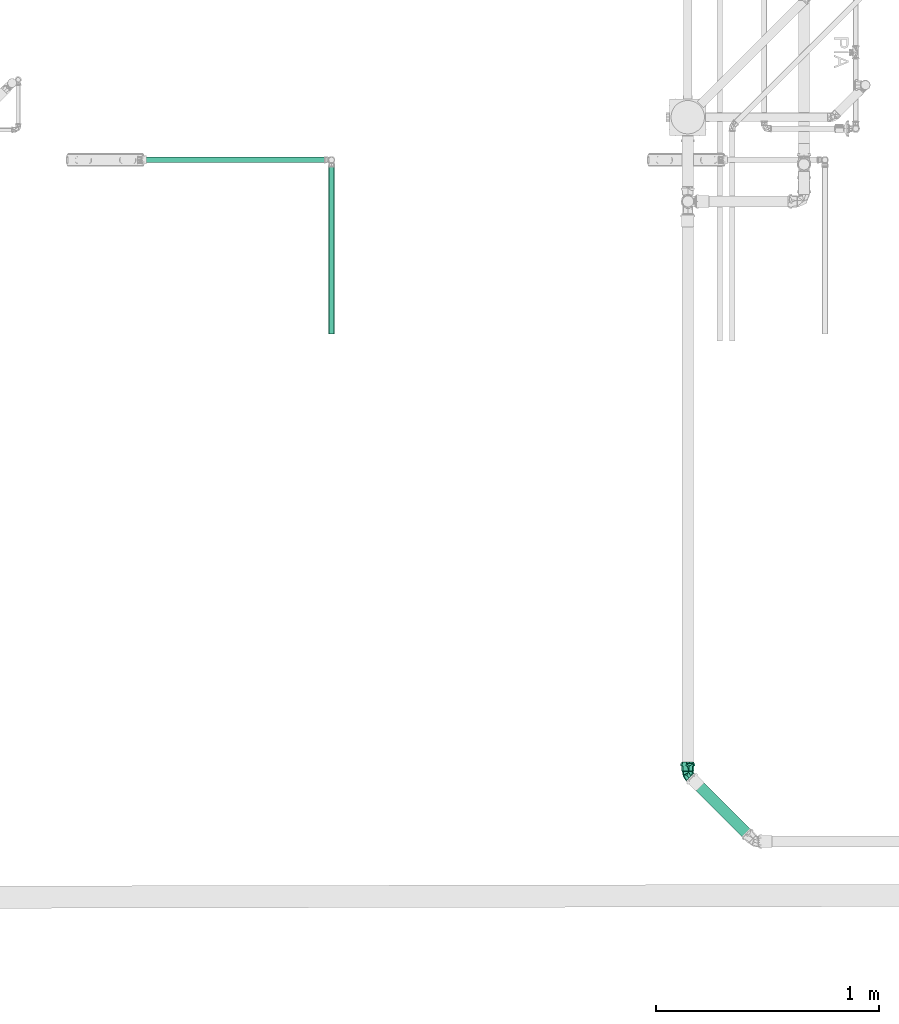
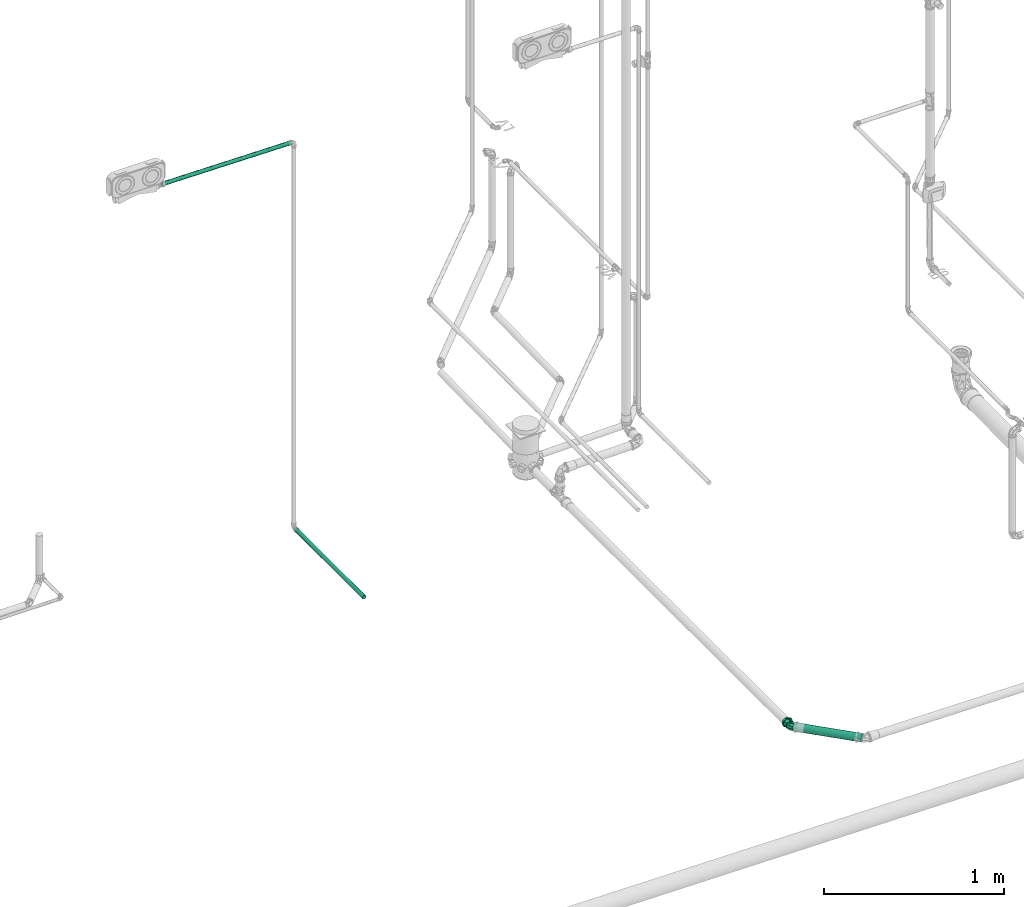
# One storey, part 35 of 589: 3 flow segments, 1 flow fitting.
"""IFC2X3 building model written with IfcOpenShell, lengths in millimetres."""

from ifc_helpers import new_model, entity, si_unit, converted_unit, derived_unit, direction, frame, frame_2d, origin, origin_2d_with_axis, place, context, subcontext, project, spatial, circle, extrude, faceted_brep, source, transform, mapped, material, type_object, type_shapes, element, save


model = new_model("IFC2X3")

# Units and contexts
model_context = context("Model", 3, precision=0.01, world=origin(), true_north=direction((6.123031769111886e-17, 1.0)))
body_context = subcontext(model_context, "Body", "Model", "MODEL_VIEW")
ifc_project = project(units=[si_unit("LENGTHUNIT", "METRE", prefix="MILLI"), si_unit("AREAUNIT", "SQUARE_METRE"), si_unit("VOLUMEUNIT", "CUBIC_METRE"), converted_unit("PLANEANGLEUNIT", "DEGREE", entity("IfcRatioMeasure", 0.017453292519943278), si_unit("PLANEANGLEUNIT", "RADIAN"), dimensions=[0, 0, 0, 0, 0, 0, 0]), si_unit("MASSUNIT", "GRAM", prefix="KILO"), derived_unit("MASSDENSITYUNIT", [(si_unit("MASSUNIT", "GRAM", prefix="KILO"), 1), (si_unit("LENGTHUNIT", "METRE"), -3)]), derived_unit("IONCONCENTRATIONUNIT", [(si_unit("MASSUNIT", "GRAM", prefix="KILO"), 1), (si_unit("LENGTHUNIT", "METRE"), -3)]), derived_unit("MOMENTOFINERTIAUNIT", [(si_unit("LENGTHUNIT", "METRE"), 4)]), si_unit("TIMEUNIT", "SECOND"), si_unit("FREQUENCYUNIT", "HERTZ"), si_unit("THERMODYNAMICTEMPERATUREUNIT", "DEGREE_CELSIUS"), derived_unit("THERMALTRANSMITTANCEUNIT", [(si_unit("MASSUNIT", "GRAM", prefix="KILO"), 1), (si_unit("THERMODYNAMICTEMPERATUREUNIT", "KELVIN"), -1), (si_unit("TIMEUNIT", "SECOND"), -3)]), derived_unit("THERMALCONDUCTANCEUNIT", [(si_unit("MASSUNIT", "GRAM", prefix="KILO"), 1), (si_unit("THERMODYNAMICTEMPERATUREUNIT", "KELVIN"), -1), (si_unit("TIMEUNIT", "SECOND"), -3), (si_unit("LENGTHUNIT", "METRE"), 1)]), derived_unit("VOLUMETRICFLOWRATEUNIT", [(si_unit("LENGTHUNIT", "METRE"), 3), (si_unit("TIMEUNIT", "SECOND"), -1)]), derived_unit("MASSFLOWRATEUNIT", [(si_unit("MASSUNIT", "GRAM", prefix="KILO"), 1), (si_unit("TIMEUNIT", "SECOND"), -1)]), derived_unit("ROTATIONALFREQUENCYUNIT", [(si_unit("TIMEUNIT", "SECOND"), -1)]), si_unit("ELECTRICCURRENTUNIT", "AMPERE"), si_unit("ELECTRICVOLTAGEUNIT", "VOLT"), si_unit("POWERUNIT", "WATT"), si_unit("FORCEUNIT", "NEWTON", prefix="KILO"), si_unit("ILLUMINANCEUNIT", "LUX"), si_unit("LUMINOUSFLUXUNIT", "LUMEN"), si_unit("LUMINOUSINTENSITYUNIT", "CANDELA"), derived_unit("USERDEFINED", [(si_unit("MASSUNIT", "GRAM", prefix="KILO"), -1), (si_unit("LENGTHUNIT", "METRE"), -2), (si_unit("TIMEUNIT", "SECOND"), 3), (si_unit("LUMINOUSFLUXUNIT", "LUMEN"), 1)]), derived_unit("USERDEFINED", [(si_unit("MASSUNIT", "GRAM", prefix="KILO"), 1), (si_unit("TIMEUNIT", "SECOND"), -3), (si_unit("LENGTHUNIT", "METRE"), 3), (si_unit("ELECTRICCURRENTUNIT", "AMPERE"), -2)]), derived_unit("SOUNDPOWERUNIT", [(si_unit("MASSUNIT", "GRAM", prefix="KILO"), 1), (si_unit("TIMEUNIT", "SECOND"), -3), (si_unit("LENGTHUNIT", "METRE"), 2)]), derived_unit("SOUNDPRESSUREUNIT", [(si_unit("MASSUNIT", "GRAM", prefix="KILO"), 1), (si_unit("LENGTHUNIT", "METRE"), -1), (si_unit("TIMEUNIT", "SECOND"), -2)]), derived_unit("LINEARVELOCITYUNIT", [(si_unit("LENGTHUNIT", "METRE"), 1), (si_unit("TIMEUNIT", "SECOND"), -1)]), si_unit("PRESSUREUNIT", "PASCAL"), derived_unit("USERDEFINED", [(si_unit("MASSUNIT", "GRAM", prefix="KILO"), 1), (si_unit("LENGTHUNIT", "METRE"), -2), (si_unit("TIMEUNIT", "SECOND"), -2)]), derived_unit("LINEARFORCEUNIT", [(si_unit("MASSUNIT", "GRAM", prefix="KILO"), 1), (si_unit("TIMEUNIT", "SECOND"), -2)]), derived_unit("PLANARFORCEUNIT", [(si_unit("MASSUNIT", "GRAM", prefix="KILO"), 1), (si_unit("LENGTHUNIT", "METRE"), -1), (si_unit("TIMEUNIT", "SECOND"), -2)]), derived_unit("SPECIFICHEATCAPACITYUNIT", [(si_unit("THERMODYNAMICTEMPERATUREUNIT", "KELVIN"), -1), (si_unit("LENGTHUNIT", "METRE"), 2), (si_unit("TIMEUNIT", "SECOND"), -2)]), derived_unit("HEATINGVALUEUNIT", [(si_unit("LENGTHUNIT", "METRE"), 2), (si_unit("TIMEUNIT", "SECOND"), -2)]), derived_unit("VAPORPERMEABILITYUNIT", [(si_unit("LENGTHUNIT", "METRE"), -1), (si_unit("TIMEUNIT", "SECOND"), 1)]), derived_unit("DYNAMICVISCOSITYUNIT", [(si_unit("MASSUNIT", "GRAM", prefix="KILO"), 1), (si_unit("TIMEUNIT", "SECOND"), -1), (si_unit("LENGTHUNIT", "METRE"), -1)]), derived_unit("THERMALEXPANSIONCOEFFICIENTUNIT", [(si_unit("THERMODYNAMICTEMPERATUREUNIT", "KELVIN"), -1)]), derived_unit("MODULUSOFELASTICITYUNIT", [(si_unit("MASSUNIT", "GRAM", prefix="KILO"), 1), (si_unit("LENGTHUNIT", "METRE"), -1), (si_unit("TIMEUNIT", "SECOND"), -2)]), derived_unit("ISOTHERMALMOISTURECAPACITYUNIT", [(si_unit("LENGTHUNIT", "METRE"), 3), (si_unit("MASSUNIT", "GRAM", prefix="KILO"), -1)]), derived_unit("MOISTUREDIFFUSIVITYUNIT", [(si_unit("TIMEUNIT", "SECOND"), -1), (si_unit("LENGTHUNIT", "METRE"), 2)])], contexts=[model_context])

# Site, building, storey
site_placement = place(None, origin())
site = spatial("IfcSite", under=ifc_project, at=site_placement, Name="Default", CompositionType="ELEMENT")
building_placement = place(site_placement, origin())
building = spatial("IfcBuilding", under=site, at=building_placement, CompositionType="ELEMENT")
storey_placement = place(building_placement, frame((0.0, 0.0, 100.0)))
storey = spatial("IfcBuildingStorey", under=building, at=storey_placement, Name="TÉRREO", CompositionType="ELEMENT", Elevation=100.0)

# Flow segments
pipe_segment_type_1 = type_object("IfcPipeSegmentType", Name="Tipos de tubos:PVC Esgoto Série Normal", PredefinedType="NOTDEFINED")
flow_segment_1_placement = place(storey_placement, origin())
element("IfcFlowSegment", 1, at=flow_segment_1_placement, inside=storey, type_object=pipe_segment_type_1, Name="Tipos de tubos:PVC Esgoto Série Normal", ObjectType="Tipos de tubos:PVC Esgoto Série Normal", context=body_context, shape_type="SweptSolid", body=[
    extrude(circle(Radius=25.0, at=frame_2d((2.3928209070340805e-14, -2.3927012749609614e-16), x_axis=(1.0, 0.0))), frame((-122.28602797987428, -10926.700416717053, -277.54565820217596), z_axis=(-0.7070714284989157, 0.7070714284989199, 0.009999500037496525), x_axis=(-0.7071067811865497, -0.7071067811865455, 0.0)), (0.0, 0.0, 1.0), 391.4150489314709),
])
pipe_segment_type_2 = type_object("IfcPipeSegmentType", Name="Tipos de tubos:PVC Marrom Soldável", PredefinedType="NOTDEFINED")
flow_segment_2_placement = place(storey_placement, origin())
element("IfcFlowSegment", 2, at=flow_segment_2_placement, inside=storey, type_object=pipe_segment_type_2, Name="Tipos de tubos:PVC Marrom Soldável", ObjectType="Tipos de tubos:PVC Marrom Soldável", context=body_context, shape_type="SweptSolid", body=[
    extrude(circle(Radius=12.5, at=frame_2d((-2.7071682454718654e-13, -9.417920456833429e-08), x_axis=(1.0, 0.0))), frame((-2004.8081497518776, -8667.861284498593, -37.354458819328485), z_axis=(-1.8287699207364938e-07, 1.0, 0.0), x_axis=(-1.0, -1.828769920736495e-07, 0.0)), (0.0, 0.0, 1.0), 764.6000387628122),
])
flow_segment_3_placement = place(storey_placement, origin())
element("IfcFlowSegment", 3, at=flow_segment_3_placement, inside=storey, type_object=pipe_segment_type_2, Name="Tipos de tubos:PVC Marrom Soldável", ObjectType="Tipos de tubos:PVC Marrom Soldável", context=body_context, shape_type="SweptSolid", body=[
    extrude(circle(Radius=12.5, at=origin_2d_with_axis()), frame((-2849.860439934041, -7887.861245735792, 2579.199580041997), z_axis=(0.9999500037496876, 0.0, -0.009999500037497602), x_axis=(0.0, -1.0, 0.0)), (0.0, 0.0, 1.0), 828.623539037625),
])

# Flow fitting
ifc_material = material(Name="PVC Série Normal")
pipe_fitting_type = type_object("IfcPipeFittingType", Name="PVC Esgoto_Joelho 45_90_Rodrigo MEP:a. Série Normal", PredefinedType="NOTDEFINED", material=ifc_material)
shared_shape = source(origin(), body_context, "Body", "Brep", [
    faceted_brep([(3.0399528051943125, 12.190087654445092, -24.1481456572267), (12.190287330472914, 3.0391520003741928, -24.14814565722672), (22.923928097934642, -7.695193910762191, -12.500000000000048), (25.292208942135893, -10.063630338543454, 0.0), (22.923928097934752, -7.6951939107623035, 12.499999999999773), (12.190287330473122, 3.039152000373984, 24.148145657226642), (3.039952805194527, 12.190087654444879, 24.14814565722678), (-7.693687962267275, 22.92443356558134, 12.500000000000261), (-10.061968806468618, 25.292869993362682, 0.0), (-7.693687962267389, 22.924433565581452, -12.499999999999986), (26.60100413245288, -4.01835942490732, -12.500000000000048), (15.867363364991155, 6.715986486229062, -24.14814565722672), (6.717028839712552, 15.86692214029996, -24.1481456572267), (-4.016611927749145, 26.601268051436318, -12.499999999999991), (-6.384892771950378, 28.969704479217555, 0.0), (-4.016611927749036, 26.60126805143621, 12.500000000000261), (6.717028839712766, 15.866922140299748, 24.14814565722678), (15.86736336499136, 6.715986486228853, 24.148145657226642), (26.60100413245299, -4.018359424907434, 12.499999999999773), (28.969284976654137, -6.386795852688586, 0.0)], [[[0, 1, 2, 3, 4, 5, 6, 7, 8, 9]], [[10, 11, 12, 13, 14, 15, 16, 17, 18, 19]], [[3, 19, 18, 4]], [[4, 18, 17, 5]], [[17, 16, 6, 5]], [[6, 16, 15, 7]], [[7, 15, 14, 8]], [[8, 14, 13, 9]], [[9, 13, 12, 0]], [[12, 11, 1, 0]], [[1, 11, 10, 2]], [[2, 10, 19, 3]]]),
    faceted_brep([(-55.969052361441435, -6.988114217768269, -26.07999730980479), (-55.969052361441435, -6.47047612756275, -24.14814565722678), (-55.969052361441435, 6.4704761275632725, -24.148145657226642), (-55.969052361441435, -23.382685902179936, -13.499999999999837), (-55.969052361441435, 6.988114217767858, -26.0799973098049), (-55.969052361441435, -21.650635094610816, -12.500000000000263), (-55.969052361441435, -25.0, 0.0), (-55.969052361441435, -27.0, 0.0), (-55.969052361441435, -21.650635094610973, 12.499999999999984), (-55.969052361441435, -23.382685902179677, 13.500000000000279), (-55.969052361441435, -6.470476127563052, 24.1481456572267), (-55.969052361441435, -6.98811421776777, 26.079997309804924), (-55.969052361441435, 6.470476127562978, 24.14814565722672), (-55.969052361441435, 6.988114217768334, 26.07999730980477), (-55.969052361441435, 21.650635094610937, 12.500000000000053), (-55.969052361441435, 23.38268590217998, 13.499999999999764), (-55.969052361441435, 27.0, 0.0), (-55.969052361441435, 25.0, 0.0), (-55.969052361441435, 23.382685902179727, -13.500000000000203), (-55.969052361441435, 21.6506350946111, -12.499999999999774), (-15.969052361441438, 21.650635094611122, -12.499999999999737), (-15.969052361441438, 25.0, 0.0), (-15.969052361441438, 6.4704761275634, -24.148145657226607), (-15.969052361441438, -6.470476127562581, -24.148145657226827), (-15.969052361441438, -21.650635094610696, -12.500000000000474), (-15.969052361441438, -25.0, 0.0), (-15.969052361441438, -21.65063509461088, 12.500000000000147), (-15.969052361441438, -6.470476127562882, 24.14814565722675), (-15.969052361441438, 6.470476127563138, 24.148145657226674), (-15.969052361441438, 21.650635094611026, 12.499999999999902), (-15.969052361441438, 27.0, 0.0), (-15.969052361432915, 20.682232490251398, 17.35641838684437), (-15.96905236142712, 4.685536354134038, 26.59033187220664), (-15.96905236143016, -20.686585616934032, 17.35122979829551), (-15.969052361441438, -27.0, 0.0), (-15.969052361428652, -8.000524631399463, 21.970780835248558), (-15.969052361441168, -20.686585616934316, -17.35122979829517), (-15.969052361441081, -4.6922062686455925, -26.589155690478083), (-15.96905236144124, 20.682232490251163, -17.356418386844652), (-15.969052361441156, 7.995013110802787, -21.972787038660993), (-13.769052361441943, -4.338459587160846, -24.620677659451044), (-13.76905236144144, 25.0, 0.0), (-13.769052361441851, 19.15424594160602, -16.065953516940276), (-13.769052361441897, 7.407893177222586, -20.343315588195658), (-13.769052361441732, -19.15021526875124, -16.070757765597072), (-13.769052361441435, -25.0, 0.0), (-13.769052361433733, -19.150215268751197, 16.07075776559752), (-13.769052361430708, -7.402789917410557, 20.34517318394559), (-13.769052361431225, 19.15424594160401, 16.065953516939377), (-13.769052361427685, 4.344635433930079, 24.61958860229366), (-10.769052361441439, 25.0, 0.0), (-10.769052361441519, 19.151286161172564, 16.069481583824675), (-10.769052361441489, 4.341396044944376, 24.62016003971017), (-10.769052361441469, -7.404832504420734, 20.344954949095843), (-10.769052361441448, -19.15106105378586, 16.069749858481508), (-10.769052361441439, -25.0, 0.0), (-10.769052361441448, -19.15106105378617, -16.069749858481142), (-10.769052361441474, -4.341051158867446, -24.62022085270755), (-10.769052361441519, 19.15128616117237, -16.069481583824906), (-10.769052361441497, 7.405117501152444, -20.344851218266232), (22.923928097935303, -7.695193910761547, -12.500000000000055), (12.190287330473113, 3.0391520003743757, -24.14814565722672), (3.039952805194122, 12.19008765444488, -24.1481456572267), (-7.6936879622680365, 22.924433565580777, -12.499999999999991), (-10.06196880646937, 25.292869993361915, 0.0), (-7.693687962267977, 22.924433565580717, 12.500000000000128), (3.0399528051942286, 12.190087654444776, 24.14814565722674), (12.190287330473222, 3.039152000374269, 24.148145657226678), (22.923928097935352, -7.6951939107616, 12.499999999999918), (25.29220894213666, -10.063630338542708, 0.0), (1.7065980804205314, -18.230977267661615, 15.057518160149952), (8.747028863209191, -21.118176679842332, 0.0), (12.76977479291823, -13.648688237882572, 14.852748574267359), (-3.6055022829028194, -23.57514244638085, 0.0), (2.158892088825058, -4.458908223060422, 23.97388512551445), (-10.386384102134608, 25.076114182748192, 0.0), (19.21915426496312, -14.121299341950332, 0.0), (12.766287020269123, -13.645706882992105, -14.858628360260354), (2.12136640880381, -4.51348200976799, -23.96332319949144), (1.7564215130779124, -18.243467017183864, -15.023571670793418)], [[[0, 1, 2]], [[1, 0, 3]], [[2, 4, 0]], [[3, 5, 1]], [[3, 6, 5]], [[6, 3, 7]], [[8, 6, 7]], [[8, 7, 9]], [[9, 10, 8]], [[9, 11, 10]], [[10, 11, 12]], [[13, 12, 11]], [[13, 14, 12]], [[14, 13, 15]], [[16, 14, 15]], [[17, 14, 16]], [[18, 17, 16]], [[18, 19, 17]], [[19, 18, 4]], [[4, 2, 19]], [[20, 21, 17, 19]], [[22, 20, 19, 2]], [[2, 1, 23, 22]], [[24, 23, 1, 5]], [[25, 24, 5, 6]], [[26, 25, 6, 8]], [[27, 26, 8, 10]], [[10, 12, 28, 27]], [[29, 28, 12, 14]], [[21, 29, 14, 17]], [[16, 15, 30]], [[15, 31, 30]], [[31, 15, 13]], [[31, 13, 32]], [[33, 11, 9]], [[34, 9, 7]], [[11, 33, 35, 32]], [[33, 9, 34]], [[11, 32, 13]], [[7, 3, 34]], [[3, 36, 34]], [[36, 3, 0]], [[36, 0, 37]], [[38, 4, 18]], [[30, 18, 16]], [[4, 38, 39, 37]], [[38, 18, 30]], [[4, 37, 0]], [[28, 29, 21, 20, 22, 23, 24, 25, 26, 27]], [[39, 40, 37]], [[41, 42, 30]], [[30, 42, 38]], [[38, 43, 39]], [[44, 45, 36]], [[38, 42, 43]], [[36, 37, 44]], [[34, 36, 45]], [[40, 39, 43]], [[44, 37, 40]], [[45, 46, 33]], [[33, 34, 45]], [[46, 35, 33]], [[46, 47, 35]], [[47, 32, 35]], [[48, 41, 30]], [[48, 31, 49]], [[31, 48, 30]], [[32, 47, 49]], [[49, 31, 32]], [[41, 48, 50]], [[48, 51, 50]], [[51, 48, 49]], [[51, 49, 52]], [[52, 47, 53]], [[46, 54, 53]], [[46, 45, 54]], [[49, 47, 52]], [[54, 45, 55]], [[47, 46, 53]], [[45, 44, 56]], [[45, 56, 55]], [[56, 44, 57]], [[58, 59, 43]], [[44, 40, 57]], [[40, 59, 57]], [[58, 43, 42]], [[42, 50, 58]], [[50, 42, 41]], [[59, 40, 43]], [[60, 61, 62, 63, 64, 65, 66, 67, 68, 69]], [[51, 52, 66]], [[70, 71, 72]], [[54, 55, 73]], [[70, 72, 74]], [[50, 65, 75]], [[51, 65, 50]], [[52, 70, 74]], [[76, 69, 68]], [[71, 70, 73]], [[72, 76, 68]], [[73, 70, 54]], [[76, 72, 71]], [[67, 72, 68]], [[75, 65, 64]], [[70, 52, 53, 54]], [[52, 74, 66]], [[66, 65, 51]], [[67, 74, 72]], [[67, 66, 74]], [[60, 76, 77]], [[73, 55, 56]], [[78, 58, 62]], [[78, 57, 59, 58]], [[79, 73, 56]], [[57, 78, 79]], [[61, 77, 78]], [[58, 50, 63]], [[75, 64, 63]], [[57, 79, 56]], [[60, 69, 76]], [[63, 62, 58]], [[79, 78, 77]], [[61, 60, 77]], [[76, 71, 77]], [[73, 79, 71]], [[79, 77, 71]], [[62, 61, 78]], [[63, 50, 75]]]),
    faceted_brep([(-38.969052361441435, 6.9881142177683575, -26.07999730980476), (-38.969052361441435, -6.988114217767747, -26.079997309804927), (-38.969052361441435, -8.282209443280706, -30.909626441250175), (-38.969052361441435, 8.28220944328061, -30.9096264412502), (-38.969052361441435, 23.38268590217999, -13.499999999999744), (-38.969052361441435, -27.712812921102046, -16.0), (-38.969052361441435, -23.38268590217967, -13.500000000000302), (-38.969052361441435, -27.0, 0.0), (-38.969052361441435, -32.0, 0.0), (-38.969052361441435, -23.382685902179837, 13.500000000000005), (-38.969052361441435, -27.712812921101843, 16.0), (-38.969052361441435, -6.988114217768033, 26.07999730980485), (-38.969052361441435, -8.28220944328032, 30.909626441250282), (-38.969052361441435, 6.988114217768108, 26.07999730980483), (-38.969052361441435, 8.282209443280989, 30.909626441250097), (-38.969052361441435, 23.382685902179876, 13.499999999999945), (-38.969052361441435, 27.712812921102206, 16.0), (-38.969052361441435, 32.0, 0.0), (-38.969052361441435, 27.0, 0.0), (-38.969052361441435, 27.712812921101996, -16.0), (-48.96905236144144, 27.0, 0.0), (-50.26905236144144, 27.0, 0.0), (-48.96905236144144, 25.191342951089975, -6.750000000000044), (-48.96905236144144, 23.38268590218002, -13.499999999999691), (-48.96905236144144, 19.284042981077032, -16.644999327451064), (-48.96905236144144, 15.185400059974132, -19.789998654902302), (-48.96905236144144, 11.086757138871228, -22.934997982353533), (-48.96905236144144, 6.988114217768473, -26.07999730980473), (-48.96905236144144, 0.0, -26.079997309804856), (-48.96905236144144, -6.988114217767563, -26.079997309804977), (-48.96905236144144, -11.086757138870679, -22.934997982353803), (-48.96905236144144, -15.185400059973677, -19.789998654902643), (-48.96905236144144, -19.284042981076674, -16.644999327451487), (-48.96905236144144, -23.382685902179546, -13.50000000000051), (-48.96905236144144, -25.191342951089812, -6.750000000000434), (-50.26905236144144, -27.0, 0.0), (-48.96905236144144, -27.0, 0.0), (-48.96905236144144, -25.19134295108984, 6.750000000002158), (-48.96905236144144, -23.382685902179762, 13.500000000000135), (-48.96905236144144, -19.284042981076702, 16.64499932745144), (-48.96905236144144, -15.185400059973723, 19.7899986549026), (-48.96905236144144, -11.086757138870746, 22.934997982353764), (-48.96905236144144, -6.988114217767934, 26.079997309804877), (-48.96905236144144, 0.0, 26.079997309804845), (-48.96905236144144, 6.988114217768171, 26.079997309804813), (-48.96905236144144, 11.086757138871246, 22.93499798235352), (-48.96905236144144, 15.185400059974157, 19.789998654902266), (-48.96905236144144, 19.284042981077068, 16.644999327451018), (-48.96905236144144, 23.382685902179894, 13.499999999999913), (-48.96905236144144, 25.19134295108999, 6.74999999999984), (-48.96905236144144, 32.0, 0.0), (-48.96905236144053, 24.512275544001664, 20.570569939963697), (-48.969052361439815, -5.561133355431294, 31.51307341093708), (-48.969052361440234, -24.51743480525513, 20.56442050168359), (-48.96905236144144, -32.0, 0.0), (-48.96905236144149, -24.51743480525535, -20.564420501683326), (-48.9690523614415, 5.553228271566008, -31.514467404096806), (-48.96905236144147, 24.512275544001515, -20.570569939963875), (-50.269052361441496, -23.84329280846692, -8.675614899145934), (-50.26905236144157, -20.686585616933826, -17.351229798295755), (-50.26905236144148, 23.841116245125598, -8.678209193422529), (-50.26905236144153, 20.6822324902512, -17.356418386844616), (-50.26905236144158, -12.689395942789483, -21.970192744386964), (-50.26905236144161, -4.692206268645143, -26.589155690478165), (-50.26905236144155, 14.338622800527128, -19.664602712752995), (-50.26905236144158, 1.6514034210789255, -24.280971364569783), (-50.26905236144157, 7.995013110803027, -21.97278703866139), (-50.26905236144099, 23.84111624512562, 8.678209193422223), (-50.26905236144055, 20.68223249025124, 17.35641838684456), (-50.269052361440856, -23.843292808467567, 8.675614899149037), (-50.26905236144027, -20.68658561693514, 17.351229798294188), (-50.269052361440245, 12.683884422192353, 21.973375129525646), (-50.26905236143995, 4.685536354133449, 26.590331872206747), (-50.26905236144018, -14.343555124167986, 19.66100531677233), (-50.269052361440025, -1.6574941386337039, 24.280556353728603), (-50.26905236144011, -8.000524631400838, 21.97078083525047)], [[[0, 1, 2]], [[2, 3, 0]], [[4, 0, 3]], [[5, 2, 1]], [[1, 6, 5]], [[6, 7, 5]], [[8, 5, 7]], [[8, 7, 9]], [[10, 8, 9]], [[9, 11, 10]], [[11, 12, 10]], [[13, 12, 11]], [[12, 13, 14]], [[13, 15, 14]], [[16, 14, 15]], [[16, 15, 17]], [[17, 15, 18]], [[18, 4, 19]], [[17, 18, 19]], [[3, 19, 4]], [[4, 18, 20, 21, 22, 23]], [[0, 4, 23, 24, 25, 26, 27]], [[0, 27, 28, 29, 1]], [[6, 1, 29, 30, 31, 32, 33]], [[7, 6, 33, 34, 35, 36]], [[9, 7, 36, 35, 37, 38]], [[11, 9, 38, 39, 40, 41, 42]], [[11, 42, 43, 44, 13]], [[15, 13, 44, 45, 46, 47, 48]], [[18, 15, 48, 49, 21, 20]], [[50, 51, 16]], [[50, 16, 17]], [[16, 51, 14]], [[51, 52, 14]], [[12, 52, 53]], [[10, 53, 54]], [[53, 10, 12]], [[10, 54, 8]], [[52, 12, 14]], [[54, 55, 5]], [[54, 5, 8]], [[5, 55, 2]], [[55, 56, 2]], [[3, 56, 57]], [[19, 57, 50]], [[57, 19, 3]], [[19, 50, 17]], [[56, 3, 2]], [[58, 33, 59]], [[23, 60, 61]], [[32, 31, 59, 33]], [[30, 29, 62, 31]], [[24, 23, 61, 25]], [[29, 28, 63]], [[26, 25, 64]], [[65, 63, 28]], [[31, 62, 59]], [[63, 62, 29]], [[60, 22, 21]], [[34, 58, 35]], [[66, 26, 64]], [[28, 27, 65]], [[27, 66, 65]], [[27, 26, 66]], [[64, 25, 61]], [[34, 33, 58]], [[60, 23, 22]], [[67, 48, 68]], [[38, 69, 70]], [[47, 46, 68, 48]], [[45, 44, 71, 46]], [[39, 38, 70, 40]], [[44, 43, 72]], [[41, 40, 73]], [[74, 72, 43]], [[46, 71, 68]], [[72, 71, 44]], [[69, 37, 35]], [[49, 67, 21]], [[75, 41, 73]], [[43, 42, 74]], [[42, 75, 74]], [[42, 41, 75]], [[73, 40, 70]], [[49, 48, 67]], [[69, 38, 37]], [[54, 35, 58, 59, 55]], [[55, 59, 62, 63]], [[55, 63, 56]], [[57, 61, 60, 21, 50]], [[57, 56, 61]], [[56, 63, 65, 66, 64, 61]], [[50, 21, 67, 68, 51]], [[51, 68, 71, 72]], [[51, 72, 52]], [[53, 70, 69, 35, 54]], [[53, 52, 70]], [[52, 72, 74, 75, 73, 70]]]),
])
type_shapes(pipe_fitting_type, [shared_shape])
flow_fitting_placement = place(storey_placement, frame((-410.335686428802, -10638.650758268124, -273.4720208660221), z_axis=(-0.0058565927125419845, -0.019995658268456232, 0.9997829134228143), x_axis=(0.0, -0.999800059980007, -0.019996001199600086)))
element("IfcFlowFitting", 4, at=flow_fitting_placement, inside=storey, type_object=pipe_fitting_type, material=ifc_material, Name="PVC Esgoto_Joelho 45_90_Rodrigo MEP:a. Série Normal", ObjectType="PVC Esgoto_Joelho 45_90_Rodrigo MEP:a. Série Normal", context=body_context, shape_type="MappedRepresentation", body=[
    mapped(shared_shape, transform((0.0, 0.0, 0.0), scale=1.0)),
])

save(model, "model.ifc")
